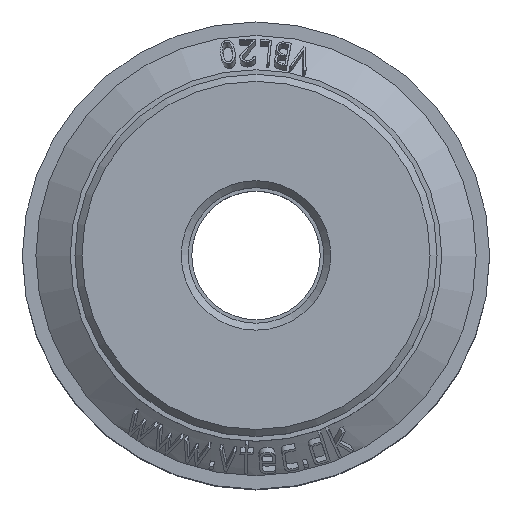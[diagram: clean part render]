
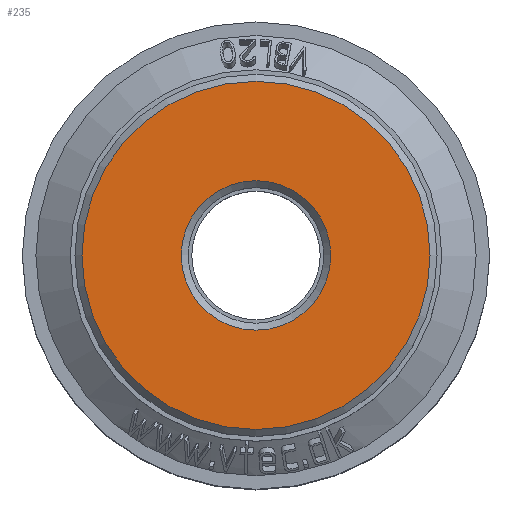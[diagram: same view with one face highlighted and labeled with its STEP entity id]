
A CAD part, top view. The second image highlights one B-rep face of the part: STEP entity #235.
In plain terms, the highlighted planar face has unit normal (0, 0, 1).
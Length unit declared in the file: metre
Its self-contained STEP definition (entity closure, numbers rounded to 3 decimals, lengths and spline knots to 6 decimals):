
#235 = ADVANCED_FACE( '', ( #627, #628 ), #629, .F. );
#627 = FACE_BOUND( '', #4202, .T. );
#628 = FACE_OUTER_BOUND( '', #4203, .T. );
#629 = PLANE( '', #4204 );
#4202 = EDGE_LOOP( '', ( #5207 ) );
#4203 = EDGE_LOOP( '', ( #5208 ) );
#4204 = AXIS2_PLACEMENT_3D( '', #5209, #5210, #5211 );
#5207 = ORIENTED_EDGE( '', *, *, #5808, .T. );
#5208 = ORIENTED_EDGE( '', *, *, #5527, .T. );
#5209 = CARTESIAN_POINT( '', ( -0.0029, 0., 0.0115 ) );
#5210 = DIRECTION( '', ( 0., 0., -1. ) );
#5211 = DIRECTION( '', ( -1., 0., 0. ) );
#5527 = EDGE_CURVE( '', #6086, #6086, #6087, .F. );
#5808 = EDGE_CURVE( '', #6519, #6519, #6520, .T. );
#6086 = VERTEX_POINT( '', #7543 );
#6087 = CIRCLE( '', #7544, 0.00745 );
#6519 = VERTEX_POINT( '', #9126 );
#6520 = CIRCLE( '', #9127, 0.0032 );
#7543 = CARTESIAN_POINT( '', ( -0.00745, 0., 0.0115 ) );
#7544 = AXIS2_PLACEMENT_3D( '', #9208, #9209, #9210 );
#9126 = CARTESIAN_POINT( '', ( -0.0032, 0., 0.0115 ) );
#9127 = AXIS2_PLACEMENT_3D( '', #9341, #9342, #9343 );
#9208 = CARTESIAN_POINT( '', ( 0., 0., 0.0115 ) );
#9209 = DIRECTION( '', ( 0., 0., -1. ) );
#9210 = DIRECTION( '', ( -1., 0., 0. ) );
#9341 = CARTESIAN_POINT( '', ( 0., 0., 0.0115 ) );
#9342 = DIRECTION( '', ( 0., 0., -1. ) );
#9343 = DIRECTION( '', ( -1., 0., 0. ) );
